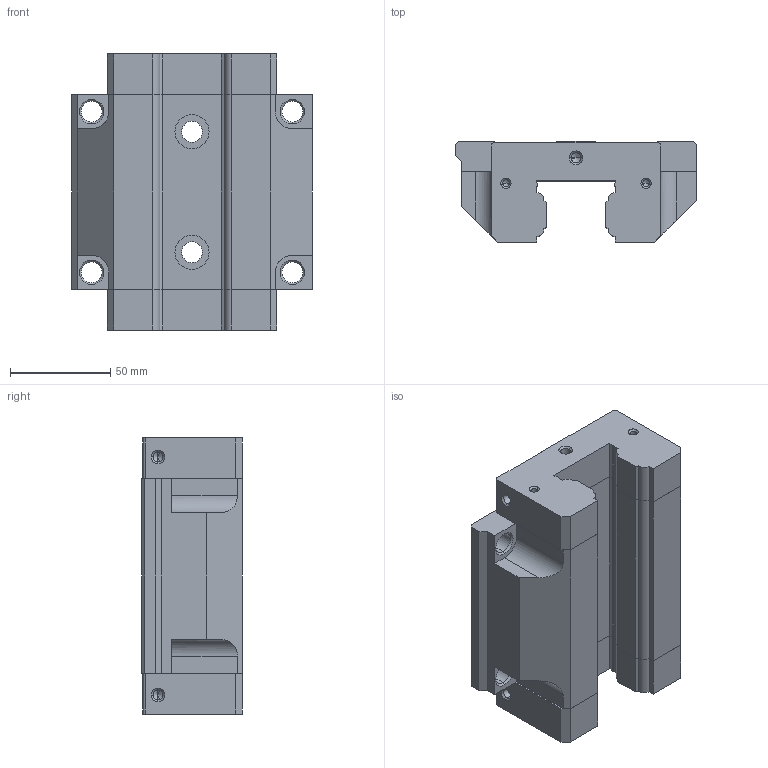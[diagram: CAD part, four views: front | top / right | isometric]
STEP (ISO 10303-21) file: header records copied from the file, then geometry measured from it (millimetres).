
FILE_DESCRIPTION (( 'STEP AP214' ), '1' );
FILE_NAME ('RUSIZE_0606172137423.step', '2007-06-06T21:02:16', ( 'SysAdmin' ), ( 'SolidWorks' ), 'SwSTEP 2.0', 'SolidWorks 2007', '' );
FILE_SCHEMA (( 'AUTOMOTIVE_DESIGN' ));
Length unit declared in the file: millimetre
Products named in the file (1): RUSIZE_0606172137423
Bounding box: 120 x 50.3 x 137.6 mm (x, y, z)
Volume: 524343 mm3; surface area: 76493.2 mm2
Topology: 3 solids, 3 shells, 240 faces, 624 edges, 386 vertices
Faces by surface type: plane 110, cylinder 70, cone 60
Entity records: 7913 total; most frequent: DIRECTION 1258, CARTESIAN_POINT 1243, ORIENTED_EDGE 1208, EDGE_CURVE 604, VECTOR 424, LINE 424, AXIS2_PLACEMENT_3D 417, VERTEX_POINT 386
